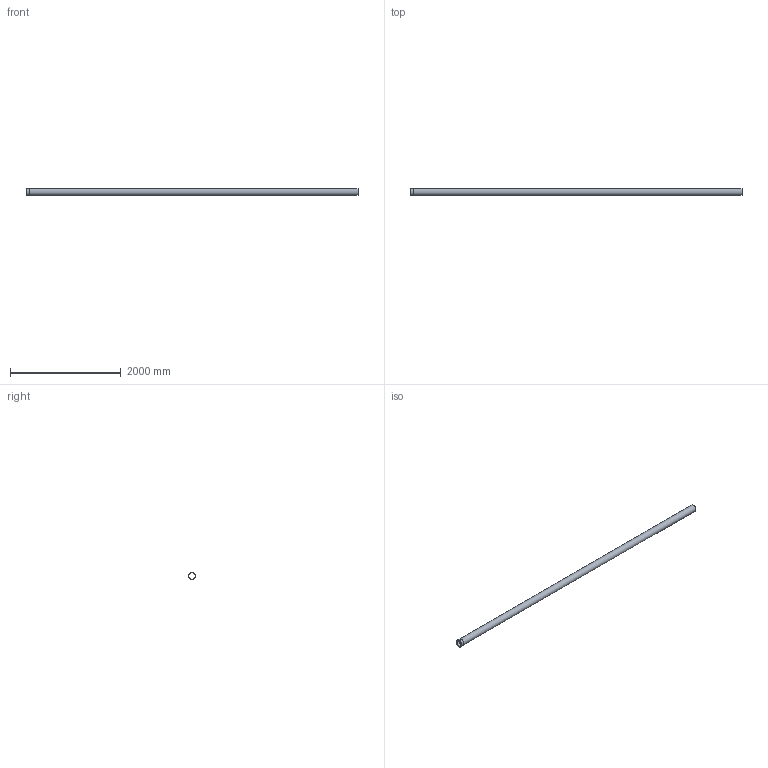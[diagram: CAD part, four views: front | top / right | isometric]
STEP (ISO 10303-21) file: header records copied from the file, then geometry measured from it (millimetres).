
FILE_DESCRIPTION((''),'2;1');
FILE_NAME('I:\WATTS\3D_CAD\3D_CAD_Models\Blucher_Drains\P_StraightPipe\WebsiteFiles\3D\STEP\P5-19.7-316.stp','2009-12-02T15:36:59',('menesek'),(''),'Autodesk Inventor 2010','Autodesk Inventor 2010','');
FILE_SCHEMA(('AUTOMOTIVE_DESIGN { 1 0 10303 214 1 1 1 1 }'));
Length unit declared in the file: inch
Products named in the file (1): P5-19.7-316
Bounding box: 6000 x 139.95 x 139.95 mm (x, y, z)
Volume: 2405288.4 mm3; surface area: 4680505.8 mm2
Topology: 1 solids, 1 shells, 109 faces, 285 edges, 190 vertices
Faces by surface type: plane 59, bspline 34, cylinder 16
Full cylindrical faces by diameter (mm): 122.936 x1, 124.968 x1, 125.984 x2, 139.954 x1
Entity records: 13939 total; most frequent: CARTESIAN_POINT 11561, ORIENTED_EDGE 548, DIRECTION 356, EDGE_CURVE 274, VERTEX_POINT 186, EDGE_LOOP 128, AXIS2_PLACEMENT_3D 120, VECTOR 116
